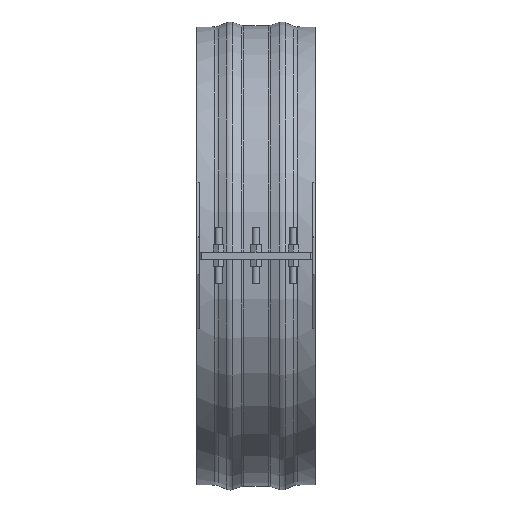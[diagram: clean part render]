
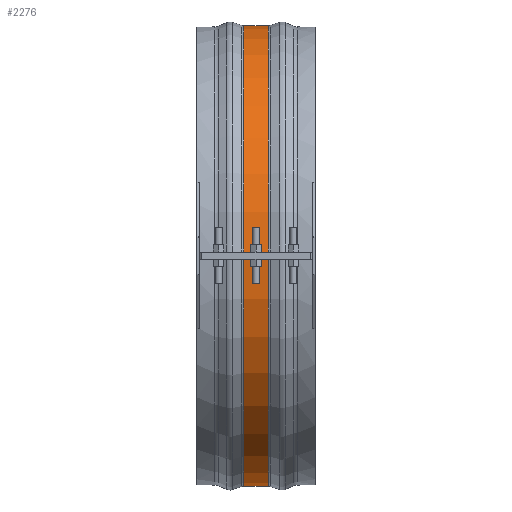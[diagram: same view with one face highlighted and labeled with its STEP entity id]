
A CAD part, top view. The second image highlights one B-rep face of the part: STEP entity #2276.
In plain terms, the highlighted cylindrical face has radius 619.427 mm (diameter 1238.85 mm), a partial arc.
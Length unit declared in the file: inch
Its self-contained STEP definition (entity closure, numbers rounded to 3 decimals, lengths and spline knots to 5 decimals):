
#258=FACE_OUTER_BOUND('',#387,.T.);
#387=EDGE_LOOP('',(#1880,#1881,#1882,#1883));
#591=LINE('',#3687,#790);
#600=LINE('',#3764,#799);
#790=VECTOR('',#2978,0.3937);
#799=VECTOR('',#2991,0.3937);
#856=CIRCLE('',#2457,24.38689);
#857=CIRCLE('',#2459,24.38689);
#1062=VERTEX_POINT('',#3679);
#1063=VERTEX_POINT('',#3686);
#1074=VERTEX_POINT('',#3756);
#1075=VERTEX_POINT('',#3763);
#1341=EDGE_CURVE('',#1063,#1062,#591,.T.);
#1356=EDGE_CURVE('',#1075,#1074,#600,.T.);
#1368=EDGE_CURVE('',#1063,#1074,#856,.T.);
#1369=EDGE_CURVE('',#1062,#1075,#857,.T.);
#1880=ORIENTED_EDGE('',*,*,#1341,.T.);
#1881=ORIENTED_EDGE('',*,*,#1369,.T.);
#1882=ORIENTED_EDGE('',*,*,#1356,.T.);
#1883=ORIENTED_EDGE('',*,*,#1368,.F.);
#2061=CYLINDRICAL_SURFACE('',#2458,24.38689);
#2276=ADVANCED_FACE('',(#258),#2061,.T.);
#2457=AXIS2_PLACEMENT_3D('',#3810,#3015,#3016);
#2458=AXIS2_PLACEMENT_3D('',#3811,#3017,#3018);
#2459=AXIS2_PLACEMENT_3D('',#3812,#3019,#3020);
#2978=DIRECTION('',(-1.,0.,0.));
#2991=DIRECTION('',(1.,0.,0.));
#3015=DIRECTION('center_axis',(1.,0.,0.));
#3016=DIRECTION('ref_axis',(0.,0.,-1.));
#3017=DIRECTION('center_axis',(1.,0.,0.));
#3018=DIRECTION('ref_axis',(0.,0.,
-1.));
#3019=DIRECTION('center_axis',(1.,0.,0.));
#3020=DIRECTION('ref_axis',(0.,0.,-1.));
#3679=CARTESIAN_POINT('',(-1.31451,-0.375,24.384));
#3686=CARTESIAN_POINT('',(1.31451,-0.375,24.384));
#3687=CARTESIAN_POINT('',(0.,-0.375,24.384));
#3756=CARTESIAN_POINT('',(1.31451,0.375,24.384));
#3763=CARTESIAN_POINT('',(-1.31451,0.375,24.384));
#3764=CARTESIAN_POINT('',(0.,0.375,24.384));
#3810=CARTESIAN_POINT('Origin',(1.31451,0.,0.));
#3811=CARTESIAN_POINT('Origin',(0.,0.,0.));
#3812=CARTESIAN_POINT('Origin',(-1.31451,0.,
0.));
